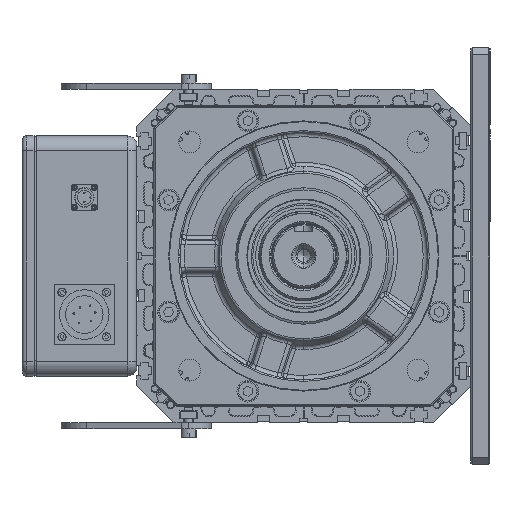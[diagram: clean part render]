
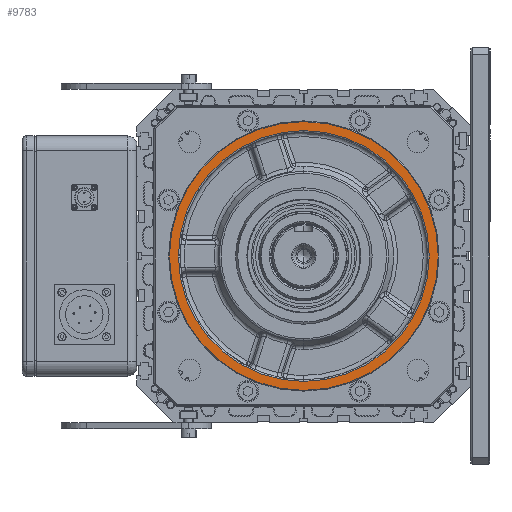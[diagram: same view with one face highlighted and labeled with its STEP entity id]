
A CAD part, left-side view. The second image highlights one B-rep face of the part: STEP entity #9783.
In plain terms, the highlighted planar face has unit normal (-1, 0, 0).
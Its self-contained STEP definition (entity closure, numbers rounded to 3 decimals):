
#4418 = DIRECTION ( 'NONE',  ( 1., 0., 0. ) ) ;
#9783 = ADVANCED_FACE ( 'NONE', ( #158928, #34411 ), #77085, .T. ) ;
#12193 = VERTEX_POINT ( 'NONE', #175533 ) ;
#13154 = ORIENTED_EDGE ( 'NONE', *, *, #36544, .T. ) ;
#19111 = ORIENTED_EDGE ( 'NONE', *, *, #139573, .T. ) ;
#23831 = DIRECTION ( 'NONE',  ( 1., 0., 0. ) ) ;
#26508 = DIRECTION ( 'NONE',  ( 0., 0., -1. ) ) ;
#34411 = FACE_OUTER_BOUND ( 'NONE', #145299, .T. ) ;
#36544 = EDGE_CURVE ( 'NONE', #105716, #61631, #117393, .T. ) ;
#38432 = CARTESIAN_POINT ( 'NONE',  ( 79.5, 0., 0. ) ) ;
#39436 = AXIS2_PLACEMENT_3D ( 'NONE', #51106, #23831, #26508 ) ;
#51106 = CARTESIAN_POINT ( 'NONE',  ( 79.5, 0., 0. ) ) ;
#58944 = CARTESIAN_POINT ( 'NONE',  ( 79.5, 0., 0. ) ) ;
#59028 = AXIS2_PLACEMENT_3D ( 'NONE', #89849, #132564, #118015 ) ;
#59860 = DIRECTION ( 'NONE',  ( 0., 0., -1. ) ) ;
#61631 = VERTEX_POINT ( 'NONE', #104583 ) ;
#64895 = DIRECTION ( 'NONE',  ( 0., 0., -1. ) ) ;
#68200 = VERTEX_POINT ( 'NONE', #151286 ) ;
#77085 = PLANE ( 'NONE',  #59028 ) ;
#89466 = EDGE_LOOP ( 'NONE', ( #19111, #112777 ) ) ;
#89849 = CARTESIAN_POINT ( 'NONE',  ( 79.5, 0., 0. ) ) ;
#90843 = AXIS2_PLACEMENT_3D ( 'NONE', #38432, #148431, #107518 ) ;
#104583 = CARTESIAN_POINT ( 'NONE',  ( 79.5, 0., 89.5 ) ) ;
#104967 = ORIENTED_EDGE ( 'NONE', *, *, #128882, .T. ) ;
#105716 = VERTEX_POINT ( 'NONE', #174747 ) ;
#107518 = DIRECTION ( 'NONE',  ( 0., 0., -1. ) ) ;
#112777 = ORIENTED_EDGE ( 'NONE', *, *, #161907, .T. ) ;
#117393 = CIRCLE ( 'NONE', #123103, 89.5 ) ;
#117831 = CIRCLE ( 'NONE', #39436, 83.5 ) ;
#118015 = DIRECTION ( 'NONE',  ( 0., 0., -1. ) ) ;
#123103 = AXIS2_PLACEMENT_3D ( 'NONE', #133992, #132205, #64895 ) ;
#128882 = EDGE_CURVE ( 'NONE', #61631, #105716, #160511, .T. ) ;
#132205 = DIRECTION ( 'NONE',  ( -1., 0., 0. ) ) ;
#132564 = DIRECTION ( 'NONE',  ( -1., 0., 0. ) ) ;
#133992 = CARTESIAN_POINT ( 'NONE',  ( 79.5, 0., 0. ) ) ;
#139573 = EDGE_CURVE ( 'NONE', #12193, #68200, #117831, .T. ) ;
#142098 = AXIS2_PLACEMENT_3D ( 'NONE', #58944, #4418, #59860 ) ;
#145299 = EDGE_LOOP ( 'NONE', ( #104967, #13154 ) ) ;
#148360 = CIRCLE ( 'NONE', #142098, 83.5 ) ;
#148431 = DIRECTION ( 'NONE',  ( -1., 0., 0. ) ) ;
#151286 = CARTESIAN_POINT ( 'NONE',  ( 79.5, 0., 83.5 ) ) ;
#158928 = FACE_BOUND ( 'NONE', #89466, .T. ) ;
#160511 = CIRCLE ( 'NONE', #90843, 89.5 ) ;
#161907 = EDGE_CURVE ( 'NONE', #68200, #12193, #148360, .T. ) ;
#174747 = CARTESIAN_POINT ( 'NONE',  ( 79.5, 0., -89.5 ) ) ;
#175533 = CARTESIAN_POINT ( 'NONE',  ( 79.5, 0., -83.5 ) ) ;
